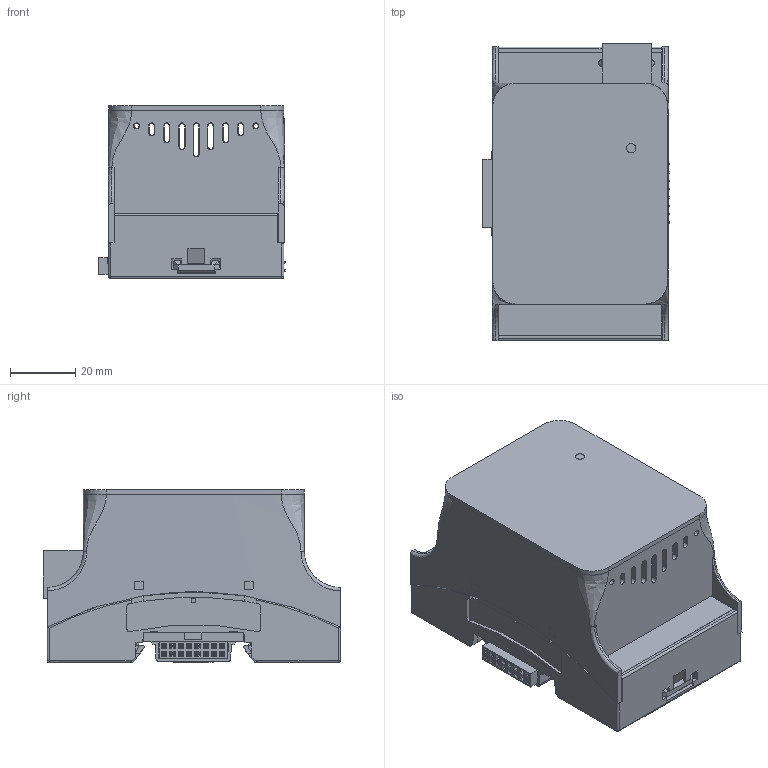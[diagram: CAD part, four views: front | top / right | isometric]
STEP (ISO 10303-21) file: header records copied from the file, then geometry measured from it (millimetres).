
FILE_DESCRIPTION(/* description */ (''),/* implementation_level */ '2;1');
FILE_NAME(/* name */ 'D:\WorkIMT\Project IMT\МВВ\v1\3D на сайт\ШУ (OUT).stp',/* time_stamp */ '2026-06-09T08:47:41+03:00',/* author */ ('admin'),/* organization */ (''),/* preprocessor_version */ 'ST-DEVELOPER v17.2',/* originating_system */ 'Autodesk Inventor 2019',/* authorisation */ '');
FILE_SCHEMA (('AUTOMOTIVE_DESIGN { 1 0 10303 214 3 1 1 }'));
Products named in the file (1): MT.GARA-DIN.ШУ.XX.XX 2
Bounding box: 57.13 x 90.84 x 52.89 mm (x, y, z)
Volume: 54561 mm3; surface area: 68431.8 mm2
Topology: 1 solids, 28 shells, 3627 faces, 9887 edges, 6301 vertices
Faces by surface type: plane 3066, cylinder 228, bspline 183, cone 142, torus 5, sphere 3
Full cylindrical faces by diameter (mm): 0.2 x4, 0.3 x1, 1.2 x18, 1.8 x2, 2 x2, 2.2 x8, 2.3 x2
Entity records: 124391 total; most frequent: CARTESIAN_POINT 30518, ORIENTED_EDGE 19762, DIRECTION 17226, EDGE_CURVE 9881, LINE 8476, VECTOR 8476, VERTEX_POINT 6301, AXIS2_PLACEMENT_3D 4375
